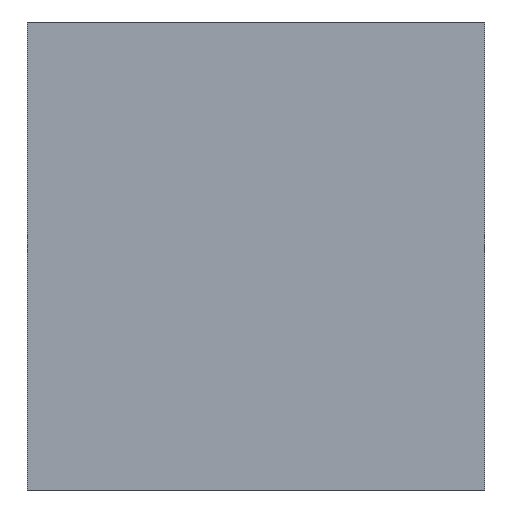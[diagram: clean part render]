
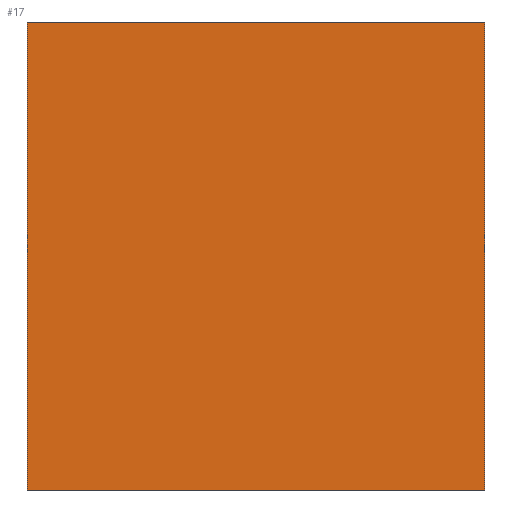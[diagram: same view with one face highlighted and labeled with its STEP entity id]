
A CAD part, left-side view. The second image highlights one B-rep face of the part: STEP entity #17.
In plain terms, the highlighted planar face has unit normal (-1, 0, 0).
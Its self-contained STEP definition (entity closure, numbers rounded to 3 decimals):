
#17 = ADVANCED_FACE('',(#18),#52,.F.);
#18 = FACE_BOUND('',#19,.F.);
#19 = EDGE_LOOP('',(#20,#30,#38,#46));
#20 = ORIENTED_EDGE('',*,*,#21,.F.);
#21 = EDGE_CURVE('',#22,#24,#26,.T.);
#22 = VERTEX_POINT('',#23);
#23 = CARTESIAN_POINT('',(-450.,-450.,0.));
#24 = VERTEX_POINT('',#25);
#25 = CARTESIAN_POINT('',(-450.,-450.,920.));
#26 = LINE('',#27,#28);
#27 = CARTESIAN_POINT('',(-450.,-450.,0.));
#28 = VECTOR('',#29,1.);
#29 = DIRECTION('',(0.,0.,1.));
#30 = ORIENTED_EDGE('',*,*,#31,.T.);
#31 = EDGE_CURVE('',#22,#32,#34,.T.);
#32 = VERTEX_POINT('',#33);
#33 = CARTESIAN_POINT('',(-450.,450.,0.));
#34 = LINE('',#35,#36);
#35 = CARTESIAN_POINT('',(-450.,-450.,0.));
#36 = VECTOR('',#37,1.);
#37 = DIRECTION('',(-0.,1.,0.));
#38 = ORIENTED_EDGE('',*,*,#39,.T.);
#39 = EDGE_CURVE('',#32,#40,#42,.T.);
#40 = VERTEX_POINT('',#41);
#41 = CARTESIAN_POINT('',(-450.,450.,920.));
#42 = LINE('',#43,#44);
#43 = CARTESIAN_POINT('',(-450.,450.,0.));
#44 = VECTOR('',#45,1.);
#45 = DIRECTION('',(0.,0.,1.));
#46 = ORIENTED_EDGE('',*,*,#47,.F.);
#47 = EDGE_CURVE('',#24,#40,#48,.T.);
#48 = LINE('',#49,#50);
#49 = CARTESIAN_POINT('',(-450.,-450.,920.));
#50 = VECTOR('',#51,1.);
#51 = DIRECTION('',(-0.,1.,0.));
#52 = PLANE('',#53);
#53 = AXIS2_PLACEMENT_3D('',#54,#55,#56);
#54 = CARTESIAN_POINT('',(-450.,-450.,0.));
#55 = DIRECTION('',(1.,0.,-0.));
#56 = DIRECTION('',(0.,0.,1.));
